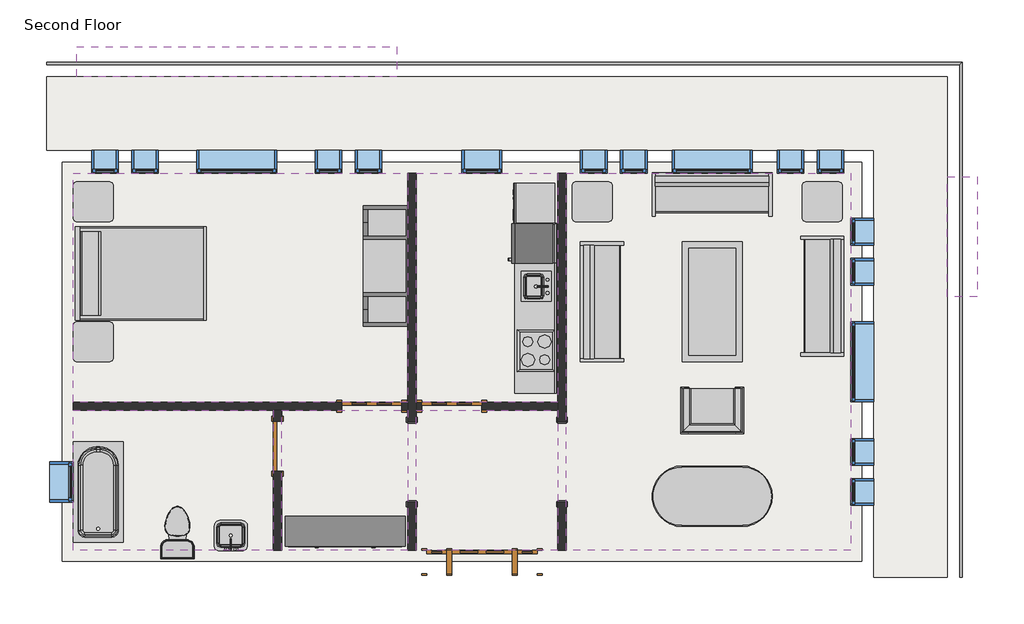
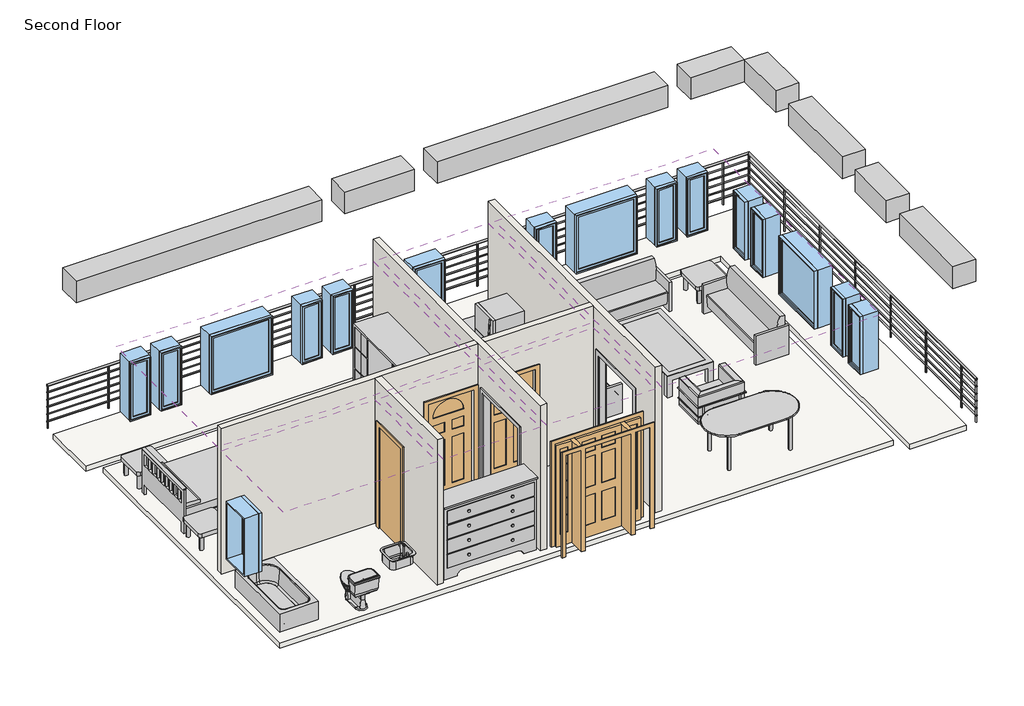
# One storey: 17 windows, 14 furniture elements, 6 coverings, 6 proxies, 5 walls, 4 doors, 4 flow terminals, 2 beams, 3 other elements.
"""IFC4 building model written with IfcOpenShell, lengths in millimetres."""

from ifc_helpers import new_model, si_unit, frame, origin, place, context, project, spatial, polyline, outline, extrude, faceted_brep, transform, mapped, element, save
from components import proxy_dfcd9396, proxy_3c49123c, proxy_7a545507, proxy_f44482cc, proxy_ec3341c2, door_829da954, door_2e3b4da2, door_4d6c7550, door_dba5aa2e, flow_terminal_41332a36, flow_terminal_62a433f7, toilet_domestic_3d_toilet_domestic_3d_f7549cf7, toilet_domestic_3d_toilet_domestic_3d_183bbd19, tub_rectangular_3d_tub_rectangular_3d_15036965, furniture_096e7f55, chair_corbu_chair_corbu_2764bdef, furniture_6db689a5, furniture_7c473f12, furniture_cf0b6580, furniture_a4ffab56, furniture_cd93a443, furniture_2c34a4f9, furniture_3a588284, handrail_pipe_d176f250, window_da97879f, window_d61ef850, window_60baf983, window_6eb97611

model = new_model("IFC4")

# Units and contexts
model_context = context("Model", 3, world=origin())
ifc_project = project(units=[si_unit("LENGTHUNIT", "METRE", prefix="MILLI")], contexts=[model_context])

# Site, building, storey
site = spatial("IfcSite", under=ifc_project)
building = spatial("IfcBuilding", under=site)
storey = spatial("IfcBuildingStorey", under=building, Name="Second Floor", Elevation=3048.0)

# Beams
placement = place(None, origin())
element("IfcBeam", 1, ObjectType="Concrete-Rectangular Beam : 18 x 18", at=placement, inside=storey, context=model_context, shape_type="SweptSolid", body=[
    extrude(outline(polyline([(2093.9410437, 12198.8316867), (2093.9410437, 11741.6316867), (1027.1410437, 11741.6316867), (1027.1410437, 12198.8316867), (2093.9410437, 12198.8316867)])), frame((0.0, 0.0, 5638.8), z_axis=(0.0, 0.0, 1.0), x_axis=(1.0, 0.0, 0.0)), (0.0, 0.0, 1.0), 457.2),
    extrude(outline(polyline([(-11164.8589563, 11741.6316867), (-11164.8589563, 12198.8316867), (-6288.0589563, 12198.8316867), (-6288.0589563, 11741.6316867), (-11164.8589563, 11741.6316867)])), frame((0.0, 0.0, 5638.8), z_axis=(0.0, 0.0, 1.0), x_axis=(1.0, 0.0, 0.0)), (0.0, 0.0, 1.0), 457.2),
    extrude(outline(polyline([(569.9410437, 12198.8316867), (569.9410437, 11741.6316867), (-4002.0589563, 11741.6316867), (-4002.0589563, 12198.8316867), (569.9410437, 12198.8316867)])), frame((0.0, 0.0, 5638.8), z_axis=(0.0, 0.0, 1.0), x_axis=(1.0, 0.0, 0.0)), (0.0, 0.0, 1.0), 457.2),
    extrude(outline(polyline([(-4459.2589563, 12198.8316867), (-4459.2589563, 11741.6316867), (-5830.8589563, 11741.6316867), (-5830.8589563, 12198.8316867), (-4459.2589563, 12198.8316867)])), frame((0.0, 0.0, 5638.8), z_axis=(0.0, 0.0, 1.0), x_axis=(1.0, 0.0, 0.0)), (0.0, 0.0, 1.0), 457.2),
])
element("IfcBeam", 2, ObjectType="Concrete-Rectangular Beam : 18 x 18", at=placement, inside=storey, context=model_context, shape_type="SweptSolid", body=[
    extrude(outline(polyline([(2093.9410437, 11741.6316867), (2551.1410437, 11741.6316867), (2551.1410437, 10674.8316867), (2093.9410437, 10674.8316867), (2093.9410437, 11741.6316867)])), frame((0.0, 0.0, 5638.8), z_axis=(0.0, 0.0, 1.0), x_axis=(1.0, 0.0, 0.0)), (0.0, 0.0, 1.0), 457.2),
    extrude(outline(polyline([(2551.1410437, 4578.8316867), (2093.9410437, 4578.8316867), (2093.9410437, 6407.6316867), (2551.1410437, 6407.6316867), (2551.1410437, 4578.8316867)])), frame((0.0, 0.0, 5638.8), z_axis=(0.0, 0.0, 1.0), x_axis=(1.0, 0.0, 0.0)), (0.0, 0.0, 1.0), 457.2),
    extrude(outline(polyline([(2093.9410437, 10217.6316867), (2551.1410437, 10217.6316867), (2551.1410437, 8388.8316867), (2093.9410437, 8388.8316867), (2093.9410437, 10217.6316867)])), frame((0.0, 0.0, 5638.8), z_axis=(0.0, 0.0, 1.0), x_axis=(1.0, 0.0, 0.0)), (0.0, 0.0, 1.0), 457.2),
    extrude(outline(polyline([(2093.9410437, 7931.6316867), (2551.1410437, 7931.6316867), (2551.1410437, 6864.8316867), (2093.9410437, 6864.8316867), (2093.9410437, 7931.6316867)])), frame((0.0, 0.0, 5638.8), z_axis=(0.0, 0.0, 1.0), x_axis=(1.0, 0.0, 0.0)), (0.0, 0.0, 1.0), 457.2),
])

# Proxies
proxy_shape = proxy_dfcd9396(model_context)
element("IfcBuildingElementProxy", 3, Name="Cook Top-4 Unit2 : 22\" x 20\"", ObjectType="Cook Top-4 Unit2 : 22\" x 20\"", at=placement, inside=storey, context=model_context, shape_type="MappedRepresentation", body=[
    mapped(proxy_shape, transform((-4167.1589563, 7568.5224391, 3048.0), x_axis=(0.0, 1.0000000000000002, 0.0), y_axis=(-1.0000000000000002, 0.0, 0.0), z_axis=(0.0, 0.0, 1.0))),
])
proxy_2_shape = proxy_3c49123c(model_context)
element("IfcBuildingElementProxy", 4, Name="Dishwasher : 24\" x 24\" x 34\"", ObjectType="Dishwasher : 24\" x 24\" x 34\"", at=placement, inside=storey, context=model_context, shape_type="MappedRepresentation", body=[
    mapped(proxy_2_shape, transform((-4459.0085211, 9434.1049706, 3048.0), x_axis=(0.0, 1.0000000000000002, 0.0), y_axis=(-1.0000000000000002, 0.0, 0.0), z_axis=(0.0, 0.0, 1.0))),
])
proxy_3_shape = proxy_7a545507(model_context)
element("IfcBuildingElementProxy", 5, Name="Kitchenette - Medium : 8'6\"", ObjectType="Kitchenette - Medium : 8'6\"", at=placement, inside=storey, context=model_context, shape_type="MappedRepresentation", body=[
    mapped(proxy_3_shape, transform((-3862.3589563, 8197.4847342, 3048.0), x_axis=(0.0, 1.0000000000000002, 0.0), y_axis=(-1.0000000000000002, 0.0, 0.0), z_axis=(0.0, 0.0, 1.0))),
])
proxy_4_shape = proxy_f44482cc(model_context)
element("IfcBuildingElementProxy", 6, Name="Opening-Cased : 48\" x 84\"", ObjectType="Opening-Cased : 48\" x 84\"", at=placement, inside=storey, context=model_context, shape_type="MappedRepresentation", body=[
    mapped(proxy_4_shape, transform((-3773.4589563, 5882.4203434, 3048.0), x_axis=(0.0, 1.0, 0.0), y_axis=(-1.0, 0.0, 0.0), z_axis=(0.0, 0.0, 1.0))),
])
element("IfcBuildingElementProxy", 7, Name="Opening-Cased : 48\" x 84\"", ObjectType="Opening-Cased : 48\" x 84\"", at=placement, inside=storey, context=model_context, shape_type="MappedRepresentation", body=[
    mapped(proxy_4_shape, transform((-6059.4589563, 5866.04303, 3048.0), x_axis=(0.0, -1.0, 0.0), y_axis=(1.0, 0.0, 0.0), z_axis=(0.0, 0.0, 1.0))),
])
proxy_5_shape = proxy_ec3341c2(model_context)
element("IfcBuildingElementProxy", 8, Name="Refrigerator : 24\" x 25\" LH", ObjectType="Refrigerator : 24\" x 25\" LH", at=placement, inside=storey, context=model_context, shape_type="MappedRepresentation", body=[
    mapped(proxy_5_shape, transform((-4212.8079278, 9200.4724391, 3048.0), x_axis=(0.0, 1.0000000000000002, 0.0), y_axis=(-1.0000000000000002, 0.0, 0.0), z_axis=(0.0, 0.0, 1.0))),
])

# Coverings
element("IfcCovering", 9, ObjectType="GWB on Mtl. Stud", at=placement, inside=storey, context=model_context, shape_type="SweptSolid", body=[
    extrude(outline(polyline([(-11217.2464563, 10270.0191867), (-6122.9589563, 10270.0191867), (-6122.9589563, 6787.0441867), (-11217.2464563, 6787.0441867), (-11217.2464563, 10270.0191867)])), frame((0.0, 0.0, 5638.8), z_axis=(0.0, 0.0, 1.0), x_axis=(1.0, 0.0, 0.0)), (0.0, 0.0, 1.0), 107.95),
])
element("IfcCovering", 10, ObjectType="GWB on Mtl. Stud", at=placement, inside=storey, context=model_context, shape_type="SweptSolid", body=[
    extrude(outline(polyline([(-5995.9589563, 6787.0441867), (-5995.9589563, 10270.0191867), (-3836.9589563, 10270.0191867), (-3836.9589563, 6787.0441867), (-5995.9589563, 6787.0441867)])), frame((0.0, 0.0, 5638.8), z_axis=(0.0, 0.0, 1.0), x_axis=(1.0, 0.0, 0.0)), (0.0, 0.0, 1.0), 107.95),
])
element("IfcCovering", 11, ObjectType="GWB on Mtl. Stud", at=placement, inside=storey, context=model_context, shape_type="SweptSolid", body=[
    extrude(outline(polyline([(-3709.9589563, 4526.4441867), (-3709.9589563, 10270.0191867), (622.3285437, 10270.0191867), (622.3285437, 4526.4441867), (-3709.9589563, 4526.4441867)])), frame((0.0, 0.0, 5638.8), z_axis=(0.0, 0.0, 1.0), x_axis=(1.0, 0.0, 0.0)), (0.0, 0.0, 1.0), 107.95),
])
element("IfcCovering", 12, ObjectType="GWB on Mtl. Stud", at=placement, inside=storey, context=model_context, shape_type="SweptSolid", body=[
    extrude(outline(polyline([(-3836.9589563, 4526.4441867), (-5995.9589563, 4526.4441867), (-5995.9589563, 6660.0441867), (-3836.9589563, 6660.0441867), (-3836.9589563, 4526.4441867)])), frame((0.0, 0.0, 5638.8), z_axis=(0.0, 0.0, 1.0), x_axis=(1.0, 0.0, 0.0)), (0.0, 0.0, 1.0), 107.95),
])
element("IfcCovering", 13, ObjectType="GWB on Mtl. Stud", at=placement, inside=storey, context=model_context, shape_type="SweptSolid", body=[
    extrude(outline(polyline([(-8169.2464563, 6660.0441867), (-8169.2464563, 4526.4441867), (-11217.2464563, 4526.4441867), (-11217.2464563, 6660.0441867), (-8169.2464563, 6660.0441867)])), frame((0.0, 0.0, 5638.8), z_axis=(0.0, 0.0, 1.0), x_axis=(1.0, 0.0, 0.0)), (0.0, 0.0, 1.0), 107.95),
])
element("IfcCovering", 14, ObjectType="GWB on Mtl. Stud", at=placement, inside=storey, context=model_context, shape_type="SweptSolid", body=[
    extrude(outline(polyline([(-6122.9589563, 4526.4441867), (-8042.2464563, 4526.4441867), (-8042.2464563, 6660.0441867), (-6122.9589563, 6660.0441867), (-6122.9589563, 4526.4441867)])), frame((0.0, 0.0, 5638.8), z_axis=(0.0, 0.0, 1.0), x_axis=(1.0, 0.0, 0.0)), (0.0, 0.0, 1.0), 107.95),
])

# Doors
door_shape = door_829da954(model_context)
element("IfcDoor", 15, ObjectType="Single-Decorative 2 : 36\" x 84\"", at=placement, inside=storey, context=model_context, shape_type="MappedRepresentation", body=[
    mapped(door_shape, transform((-5449.8589563, 6723.5441867, 3048.0), x_axis=(-1.0, 0.0, 0.0), y_axis=(0.0, -1.0, 0.0), z_axis=(0.0, 0.0, 1.0))),
])
door_2_shape = door_2e3b4da2(model_context)
element("IfcDoor", 16, ObjectType="Single-Decorative 2 : 36\" x 84\"", at=placement, inside=storey, context=model_context, shape_type="MappedRepresentation", body=[
    mapped(door_2_shape, transform((-6669.0589563, 6723.5441867, 3048.0), x_axis=(1.0, 0.0, 0.0), y_axis=(0.0, 1.0, 0.0), z_axis=(0.0, 0.0, 1.0))),
])
door_3_shape = door_4d6c7550(model_context)
element("IfcDoor", 17, ObjectType="Single-Flush : 30\" x 84\"", at=placement, inside=storey, context=model_context, shape_type="MappedRepresentation", body=[
    mapped(door_3_shape, transform((-8105.7464563, 6113.9441867, 3048.0), x_axis=(0.0, 1.0, 0.0), y_axis=(-1.0, 0.0, 0.0), z_axis=(0.0, 0.0, 1.0))),
])
door_4_shape = door_dba5aa2e(model_context)
element("IfcDoor", 18, ObjectType="Single-Raised Panel with Sidelights : 36\" x 84\"", at=placement, inside=storey, context=model_context, shape_type="MappedRepresentation", body=[
    mapped(door_4_shape, transform((-4992.6589563, 4350.2316867, 3048.0), x_axis=(-1.0, 0.0, 0.0), y_axis=(0.0, -1.0, 0.0), z_axis=(0.0, 0.0, 1.0))),
])

# Flow terminals
flow_terminal_shape = flow_terminal_41332a36(model_context)
element("IfcFlowTerminal", 19, ObjectType="Sink Kitchen-Island : 18\" x 18\"", at=placement, inside=storey, context=model_context, shape_type="MappedRepresentation", body=[
    mapped(flow_terminal_shape, transform((-4169.5043574, 8530.7331986, 3033.6), x_axis=(0.0, 1.0000000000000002, 0.0), y_axis=(-1.0000000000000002, 0.0, 0.0), z_axis=(0.0, 0.0, 1.0))),
])
flow_terminal_2_shape = flow_terminal_62a433f7(model_context)
element("IfcFlowTerminal", 20, ObjectType="Sink Vanity-Square : 20\" x 18\"", at=placement, inside=storey, context=model_context, shape_type="MappedRepresentation", body=[
    mapped(flow_terminal_2_shape, transform((-8801.2572158, 4706.5895878, 3048.0), x_axis=(-1.0, 0.0, 0.0), y_axis=(0.0, -1.0, 0.0), z_axis=(0.0, 0.0, 1.0))),
])
toilet_domestic_3d_toilet_domestic_3d_shape = toilet_domestic_3d_toilet_domestic_3d_f7549cf7(model_context)
toilet_domestic_3d_toilet_domestic_3d_2_shape = toilet_domestic_3d_toilet_domestic_3d_183bbd19(model_context)
element("IfcFlowTerminal", 21, ObjectType="Toilet-Domestic-3D : Toilet-Domestic-3D", at=placement, inside=storey, context=model_context, shape_type="MappedRepresentation", body=[
    mapped(toilet_domestic_3d_toilet_domestic_3d_shape, transform((-9629.7464563, 4894.7441867, 3048.0), x_axis=(-1.0, 0.0, 0.0), y_axis=(0.0, -1.0, 0.0), z_axis=(0.0, 0.0, 1.0))),
    mapped(toilet_domestic_3d_toilet_domestic_3d_2_shape, transform((-9629.7464563, 4894.7441867, 3048.0), x_axis=(-1.0, 0.0, 0.0), y_axis=(0.0, -1.0, 0.0), z_axis=(0.0, 0.0, 1.0))),
])
tub_rectangular_3d_tub_rectangular_3d_shape = tub_rectangular_3d_tub_rectangular_3d_15036965(model_context)
element("IfcFlowTerminal", 22, ObjectType="Tub-Rectangular-3D : Tub-Rectangular-3D", at=placement, inside=storey, context=model_context, shape_type="MappedRepresentation", body=[
    mapped(tub_rectangular_3d_tub_rectangular_3d_shape, transform((-11393.4589563, 5765.6346554, 3048.0), x_axis=(0.0, 1.0, 0.0), y_axis=(-1.0, 0.0, 0.0), z_axis=(0.0, 0.0, 1.0))),
])

# Furniture
furniture_shape = furniture_096e7f55(model_context)
element("IfcFurniture", 23, ObjectType="Bed-Shaker : Double 56\" x 78\"", at=placement, inside=storey, context=model_context, shape_type="MappedRepresentation", body=[
    mapped(furniture_shape, transform((-11172.0857802, 8763.4816867, 3048.0), x_axis=(0.0, 1.0, 0.0), y_axis=(-1.0, 0.0, 0.0), z_axis=(0.0, 0.0, 1.0))),
])
chair_corbu_chair_corbu_shape = chair_corbu_chair_corbu_2764bdef(model_context)
element("IfcFurniture", 24, ObjectType="Chair-Corbu : Chair-Corbu", at=placement, inside=storey, context=model_context, shape_type="MappedRepresentation", body=[
    mapped(chair_corbu_chair_corbu_shape, transform((-914.0851858, 7126.8212359, 3048.0), x_axis=(-1.0, 0.0, 0.0), y_axis=(0.0, -1.0, 0.0), z_axis=(0.0, 0.0, 1.0))),
])
furniture_2_shape = furniture_6db689a5(model_context)
element("IfcFurniture", 25, ObjectType="Counter Top w Sink Hole : 24\" Depth", at=placement, inside=storey, context=model_context, shape_type="MappedRepresentation", body=[
    mapped(furniture_2_shape, transform((-3862.3589563, 8121.2847342, 3033.6), x_axis=(0.0, 1.0000000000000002, 0.0), y_axis=(-1.0000000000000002, 0.0, 0.0), z_axis=(0.0, 0.0, 1.0))),
])
furniture_3_shape = furniture_7c473f12(model_context)
element("IfcFurniture", 26, ObjectType="Dresser : 72\" x 60\" x 18\"", at=placement, inside=storey, context=model_context, shape_type="MappedRepresentation", body=[
    mapped(furniture_3_shape, transform((-6806.2656965, 5181.7071408, 3048.0), x_axis=(1.0, 0.0, 0.0), y_axis=(0.0, 1.0, 0.0), z_axis=(0.0, 0.0, 1.0))),
])
furniture_4_shape = furniture_cf0b6580(model_context)
element("IfcFurniture", 27, ObjectType="Entertainment Center : 72\" x 72\" x 24\"", at=placement, inside=storey, context=model_context, shape_type="MappedRepresentation", body=[
    mapped(furniture_4_shape, transform((-6021.3589563, 8857.1441867, 3048.0), x_axis=(0.0, -1.0, 0.0), y_axis=(1.0, 0.0, 0.0), z_axis=(0.0, 0.0, 1.0))),
])
furniture_5_shape = furniture_a4ffab56(model_context)
element("IfcFurniture", 28, ObjectType="Sofa : 72\"", at=placement, inside=storey, context=model_context, shape_type="MappedRepresentation", body=[
    mapped(furniture_5_shape, transform((-3017.704858, 8242.2611949, 3048.0), x_axis=(0.0, 1.0, 0.0), y_axis=(-1.0, 0.0, 0.0), z_axis=(0.0, 0.0, 1.0))),
])
element("IfcFurniture", 29, ObjectType="Sofa : 72\"", at=placement, inside=storey, context=model_context, shape_type="MappedRepresentation", body=[
    mapped(furniture_5_shape, transform((-1557.8294481, 9801.5748071, 3048.0), x_axis=(1.0, 0.0, 0.0), y_axis=(0.0, 1.0, 0.0), z_axis=(0.0, 0.0, 1.0))),
])
element("IfcFurniture", 30, ObjectType="Sofa : 72\"", at=placement, inside=storey, context=model_context, shape_type="MappedRepresentation", body=[
    mapped(furniture_5_shape, transform((42.7869453, 8470.3146785, 3048.0), x_axis=(0.0, -1.0, 0.0), y_axis=(1.0, 0.0, 0.0), z_axis=(0.0, 0.0, 1.0))),
])
furniture_6_shape = furniture_cd93a443(model_context)
element("IfcFurniture", 31, ObjectType="Table-Coffee : 36\" x 72\" x 18\"", at=placement, inside=storey, context=model_context, shape_type="MappedRepresentation", body=[
    mapped(furniture_6_shape, transform((-1392.2478785, 8294.36592, 3048.0), x_axis=(0.0, 1.0, 0.0), y_axis=(-1.0, 0.0, 0.0), z_axis=(0.0, 0.0, 1.0))),
])
furniture_7_shape = furniture_2c34a4f9(model_context)
element("IfcFurniture", 32, ObjectType="Table-Dining Oval : 36\" x 72\"", at=placement, inside=storey, context=model_context, shape_type="MappedRepresentation", body=[
    mapped(furniture_7_shape, transform((-1085.6392842, 5710.0425473, 3048.0), x_axis=(1.0, 0.0, 0.0), y_axis=(0.0, 1.0, 0.0), z_axis=(0.0, 0.0, 1.0))),
])
furniture_8_shape = furniture_3a588284(model_context)
element("IfcFurniture", 33, ObjectType="Table-End : 24\" x 24\"", at=placement, inside=storey, context=model_context, shape_type="MappedRepresentation", body=[
    mapped(furniture_8_shape, transform((-119.5925866, 9684.2316867, 3048.0), x_axis=(1.0, 0.0, 0.0), y_axis=(0.0, 1.0, 0.0), z_axis=(0.0, 0.0, 1.0))),
])
element("IfcFurniture", 34, ObjectType="Table-End : 24\" x 24\"", at=placement, inside=storey, context=model_context, shape_type="MappedRepresentation", body=[
    mapped(furniture_8_shape, transform((-11220.9800866, 7550.6316867, 3048.0), x_axis=(1.0, 0.0, 0.0), y_axis=(0.0, 1.0, 0.0), z_axis=(0.0, 0.0, 1.0))),
])
element("IfcFurniture", 35, ObjectType="Table-End : 24\" x 24\"", at=placement, inside=storey, context=model_context, shape_type="MappedRepresentation", body=[
    mapped(furniture_8_shape, transform((-11220.9800866, 9684.2316867, 3048.0), x_axis=(1.0, 0.0, 0.0), y_axis=(0.0, 1.0, 0.0), z_axis=(0.0, 0.0, 1.0))),
])
element("IfcFurniture", 36, ObjectType="Table-End : 24\" x 24\"", at=placement, inside=storey, context=model_context, shape_type="MappedRepresentation", body=[
    mapped(furniture_8_shape, transform((-3624.7925866, 9684.2316867, 3048.0), x_axis=(1.0, 0.0, 0.0), y_axis=(0.0, 1.0, 0.0), z_axis=(0.0, 0.0, 1.0))),
])

# Railing
handrail_pipe_shape = handrail_pipe_d176f250(model_context)
element("IfcRailing", 37, ObjectType="Handrail - Pipe", at=placement, inside=storey, context=model_context, shape_type="MappedRepresentation", body=[
    mapped(handrail_pipe_shape, transform((0.0, 0.0, 0.0), x_axis=(1.0, 0.0, 0.0), y_axis=(0.0, 1.0, 0.0), z_axis=(0.0, 0.0, 1.0))),
])

# Slabs
element("IfcSlab", 38, ObjectType="LW Concrete on Metal Deck", at=placement, inside=storey, context=model_context, shape_type="SweptSolid", body=[
    extrude(outline(polyline([(787.4285437, 10435.1191867), (787.4285437, 4361.3441867), (-11382.3464563, 4361.3441867), (-11382.3464563, 10435.1191867), (787.4285437, 10435.1191867)])), frame((0.0, 0.0, 2943.225), z_axis=(0.0, 0.0, 1.0), x_axis=(1.0, 0.0, 0.0)), (0.0, 0.0, 1.0), 104.775),
])
element("IfcSlab", 39, ObjectType="LW Concrete on Metal Deck", at=placement, inside=storey, context=model_context, shape_type="SweptSolid", body=[
    extrude(outline(polyline([(-11622.0589563, 10622.4441867), (-11622.0589563, 11741.6316867), (2093.9410437, 11741.6316867), (2093.9410437, 4121.6316867), (974.7535437, 4121.6316867), (974.7535437, 10622.4441867), (-11622.0589563, 10622.4441867)])), frame((0.0, 0.0, 2943.225), z_axis=(0.0, 0.0, 1.0), x_axis=(1.0, 0.0, 0.0)), (0.0, 0.0, 1.0), 104.775),
])

# Walls
element("IfcWall", 40, ObjectType="Interior - 5\" Partition (2-hr)", at=placement, inside=storey, context=model_context, shape_type="Brep", body=[
    faceted_brep([(-3709.9589563, 10270.0191867, 3048.0), (-3709.9589563, 6483.8316867, 3048.0), (-3836.9589563, 6483.8316867, 3048.0), (-3836.9589563, 6660.0441867, 3048.0), (-3836.9589563, 6787.0441867, 3048.0), (-3836.9589563, 10270.0191867, 3048.0), (-3709.9589563, 5264.6316867, 3048.0), (-3709.9589563, 4526.4441867, 3048.0), (-3836.9589563, 4526.4441867, 3048.0), (-3836.9589563, 5264.6316867, 3048.0), (-3836.9589563, 10270.0191867, 6096.0), (-3836.9589563, 6787.0441867, 6096.0), (-3836.9589563, 6660.0441867, 6096.0), (-3836.9589563, 4526.4441867, 6096.0), (-3709.9589563, 4526.4441867, 6096.0), (-3709.9589563, 10270.0191867, 6096.0), (-3836.9589563, 6483.8316867, 5181.6), (-3836.9589563, 5264.6316867, 5181.6), (-3709.9589563, 6483.8316867, 5181.6), (-3709.9589563, 5264.6316867, 5181.6)], [[[0, 1, 2, 3, 4, 5]], [[6, 7, 8, 9]], [[10, 11, 12, 13, 14, 15]], [[5, 4, 3, 2, 16, 17, 9, 8, 13, 12, 11, 10]], [[18, 1, 0, 15, 14, 7, 6, 19]], [[5, 10, 15, 0]], [[13, 8, 7, 14]], [[9, 17, 19, 6]], [[16, 2, 1, 18]], [[17, 16, 18, 19]]]),
])
element("IfcWall", 41, ObjectType="Interior - 5\" Partition (2-hr)", at=placement, inside=storey, context=model_context, shape_type="Brep", body=[
    faceted_brep([(-6122.9589563, 4526.4441867, 3048.0), (-6122.9589563, 5264.6316867, 3048.0), (-5995.9589563, 5264.6316867, 3048.0), (-5995.9589563, 4526.4441867, 3048.0), (-6122.9589563, 6483.8316867, 3048.0), (-6122.9589563, 6660.0441867, 3048.0), (-6122.9589563, 6787.0441867, 3048.0), (-6122.9589563, 10270.0191867, 3048.0), (-5995.9589563, 10270.0191867, 3048.0), (-5995.9589563, 6787.0441867, 3048.0), (-5995.9589563, 6660.0441867, 3048.0), (-5995.9589563, 6483.8316867, 3048.0), (-6122.9589563, 10270.0191867, 6096.0), (-6122.9589563, 6787.0441867, 6096.0), (-6122.9589563, 6660.0441867, 6096.0), (-6122.9589563, 4526.4441867, 6096.0), (-5995.9589563, 4526.4441867, 6096.0), (-5995.9589563, 6660.0441867, 6096.0), (-5995.9589563, 6787.0441867, 6096.0), (-5995.9589563, 10270.0191867, 6096.0), (-6122.9589563, 5264.6316867, 5181.6), (-6122.9589563, 6483.8316867, 5181.6), (-5995.9589563, 5264.6316867, 5181.6), (-5995.9589563, 6483.8316867, 5181.6)], [[[0, 1, 2, 3]], [[4, 5, 6, 7, 8, 9, 10, 11]], [[12, 13, 14, 15, 16, 17, 18, 19]], [[20, 1, 0, 15, 14, 13, 12, 7, 6, 5, 4, 21]], [[3, 2, 22, 23, 11, 10, 9, 8, 19, 18, 17, 16]], [[7, 12, 19, 8]], [[15, 0, 3, 16]], [[11, 23, 21, 4]], [[22, 2, 1, 20]], [[23, 22, 20, 21]]]),
])
element("IfcWall", 42, ObjectType="Interior - 5\" Partition (2-hr)", at=placement, inside=storey, context=model_context, shape_type="Brep", body=[
    faceted_brep([(-6122.9589563, 6660.0441867, 3048.0), (-6211.8589563, 6660.0441867, 3048.0), (-6211.8589563, 6787.0441867, 3048.0), (-6122.9589563, 6787.0441867, 3048.0), (-7126.2589563, 6660.0441867, 3048.0), (-8042.2464563, 6660.0441867, 3048.0), (-8169.2464563, 6660.0441867, 3048.0), (-11217.2464563, 6660.0441867, 3048.0), (-11217.2464563, 6787.0441867, 3048.0), (-7126.2589563, 6787.0441867, 3048.0), (-11217.2464563, 6660.0441867, 6096.0), (-8169.2464563, 6660.0441867, 6096.0), (-8042.2464563, 6660.0441867, 6096.0), (-6122.9589563, 6660.0441867, 6096.0), (-6122.9589563, 6787.0441867, 6096.0), (-11217.2464563, 6787.0441867, 6096.0), (-6211.8589563, 6660.0441867, 5181.6), (-7126.2589563, 6660.0441867, 5181.6), (-6211.8589563, 6787.0441867, 5181.6), (-7126.2589563, 6787.0441867, 5181.6)], [[[0, 1, 2, 3]], [[4, 5, 6, 7, 8, 9]], [[10, 11, 12, 13, 14, 15]], [[16, 1, 0, 13, 12, 11, 10, 7, 6, 5, 4, 17]], [[3, 2, 18, 19, 9, 8, 15, 14]], [[13, 0, 3, 14]], [[7, 10, 15, 8]], [[18, 2, 1, 16]], [[19, 18, 16, 17]], [[9, 19, 17, 4]]]),
])
element("IfcWall", 43, ObjectType="Interior - 5\" Partition (2-hr)", at=placement, inside=storey, context=model_context, shape_type="SweptSolid", body=[
    extrude(outline(polyline([(6660.0441867, 3048.0), (6494.9441867, 3048.0), (6494.9441867, 5181.6), (5732.9441867, 5181.6), (5732.9441867, 3048.0), (4526.4441867, 3048.0), (4526.4441867, 6096.0), (6660.0441867, 6096.0), (6660.0441867, 3048.0)])), frame((-8169.2464563, 0.0, 0.0), z_axis=(1.0, 0.0, 0.0), x_axis=(0.0, 1.0, 0.0)), (0.0, 0.0, 1.0), 127.0),
])
element("IfcWall", 44, ObjectType="Interior - 5\" Partition (2-hr)", at=placement, inside=storey, context=model_context, shape_type="SweptSolid", body=[
    extrude(outline(polyline([(3048.0, -5995.9589563), (3048.0, -5907.0589563), (5181.6, -5907.0589563), (5181.6, -4992.6589563), (3048.0, -4992.6589563), (3048.0, -3836.9589563), (6096.0, -3836.9589563), (6096.0, -5995.9589563), (3048.0, -5995.9589563)])), frame((0.0, 6660.0441867, 0.0), z_axis=(0.0, 1.0, 0.0), x_axis=(0.0, 0.0, 1.0)), (0.0, 0.0, 1.0), 127.0),
])

# Windows
window_shape = window_da97879f(model_context)
element("IfcWindow", 45, ObjectType="Fixed : 16\" x 48\"", at=placement, inside=storey, context=model_context, shape_type="MappedRepresentation", body=[
    mapped(window_shape, transform((-10771.1589563, 10446.2316867, 3048.0), x_axis=(-1.0, 0.0, 0.0), y_axis=(0.0, -1.0, 0.0), z_axis=(0.0, 0.0, 1.0))),
])
element("IfcWindow", 46, ObjectType="Fixed : 16\" x 48\"", at=placement, inside=storey, context=model_context, shape_type="MappedRepresentation", body=[
    mapped(window_shape, transform((-10161.5589563, 10446.2316867, 3048.0), x_axis=(-1.0, 0.0, 0.0), y_axis=(0.0, -1.0, 0.0), z_axis=(0.0, 0.0, 1.0))),
])
element("IfcWindow", 47, ObjectType="Fixed : 16\" x 48\"", at=placement, inside=storey, context=model_context, shape_type="MappedRepresentation", body=[
    mapped(window_shape, transform((-3328.9589563, 10446.2316867, 3048.0), x_axis=(-1.0, 0.0, 0.0), y_axis=(0.0, -1.0, 0.0), z_axis=(0.0, 0.0, 1.0))),
])
element("IfcWindow", 48, ObjectType="Fixed : 16\" x 48\"", at=placement, inside=storey, context=model_context, shape_type="MappedRepresentation", body=[
    mapped(window_shape, transform((-2719.3589563, 10446.2316867, 3048.0), x_axis=(-1.0, 0.0, 0.0), y_axis=(0.0, -1.0, 0.0), z_axis=(0.0, 0.0, 1.0))),
])
element("IfcWindow", 49, ObjectType="Fixed : 16\" x 48\"", at=placement, inside=storey, context=model_context, shape_type="MappedRepresentation", body=[
    mapped(window_shape, transform((798.5410437, 9417.5316867, 3048.0), x_axis=(0.0, 1.0, 0.0), y_axis=(-1.0, 0.0, 0.0), z_axis=(0.0, 0.0, 1.0))),
])
element("IfcWindow", 50, ObjectType="Fixed : 16\" x 48\"", at=placement, inside=storey, context=model_context, shape_type="MappedRepresentation", body=[
    mapped(window_shape, transform((798.5410437, 8807.9316867, 3048.0), x_axis=(0.0, 1.0, 0.0), y_axis=(-1.0, 0.0, 0.0), z_axis=(0.0, 0.0, 1.0))),
])
window_2_shape = window_d61ef850(model_context)
element("IfcWindow", 51, ObjectType="Fixed : 16\" x 48\"", at=placement, inside=storey, context=model_context, shape_type="MappedRepresentation", body=[
    mapped(window_2_shape, transform((-6681.7589563, 10446.2316867, 3048.0), x_axis=(1.0, 0.0, 0.0), y_axis=(0.0, 1.0, 0.0), z_axis=(0.0, 0.0, 1.0))),
])
element("IfcWindow", 52, ObjectType="Fixed : 16\" x 48\"", at=placement, inside=storey, context=model_context, shape_type="MappedRepresentation", body=[
    mapped(window_2_shape, transform((-7291.3589563, 10446.2316867, 3048.0), x_axis=(1.0, 0.0, 0.0), y_axis=(0.0, 1.0, 0.0), z_axis=(0.0, 0.0, 1.0))),
])
element("IfcWindow", 53, ObjectType="Fixed : 16\" x 48\"", at=placement, inside=storey, context=model_context, shape_type="MappedRepresentation", body=[
    mapped(window_2_shape, transform((354.0410437, 10446.2316867, 3048.0), x_axis=(1.0, 0.0, 0.0), y_axis=(0.0, 1.0, 0.0), z_axis=(0.0, 0.0, 1.0))),
])
element("IfcWindow", 54, ObjectType="Fixed : 16\" x 48\"", at=placement, inside=storey, context=model_context, shape_type="MappedRepresentation", body=[
    mapped(window_2_shape, transform((-255.5589563, 10446.2316867, 3048.0), x_axis=(1.0, 0.0, 0.0), y_axis=(0.0, 1.0, 0.0), z_axis=(0.0, 0.0, 1.0))),
])
element("IfcWindow", 55, ObjectType="Fixed : 16\" x 48\"", at=placement, inside=storey, context=model_context, shape_type="MappedRepresentation", body=[
    mapped(window_2_shape, transform((798.5410437, 5378.9316867, 3048.0), x_axis=(0.0, -1.0, 0.0), y_axis=(1.0, 0.0, 0.0), z_axis=(0.0, 0.0, 1.0))),
])
element("IfcWindow", 56, ObjectType="Fixed : 16\" x 48\"", at=placement, inside=storey, context=model_context, shape_type="MappedRepresentation", body=[
    mapped(window_2_shape, transform((798.5410437, 5988.5316867, 3048.0), x_axis=(0.0, -1.0, 0.0), y_axis=(1.0, 0.0, 0.0), z_axis=(0.0, 0.0, 1.0))),
])
window_3_shape = window_60baf983(model_context)
element("IfcWindow", 57, ObjectType="Fixed : 24\" x 48\"", at=placement, inside=storey, context=model_context, shape_type="MappedRepresentation", body=[
    mapped(window_3_shape, transform((-5030.7589563, 10446.2316867, 3048.0), x_axis=(-1.0, 0.0, 0.0), y_axis=(0.0, -1.0, 0.0), z_axis=(0.0, 0.0, 1.0))),
])
element("IfcWindow", 58, ObjectType="Fixed : 24\" x 48\"", at=placement, inside=storey, context=model_context, shape_type="MappedRepresentation", body=[
    mapped(window_3_shape, transform((-11393.4589563, 5531.3316867, 3048.0), x_axis=(0.0, -1.0, 0.0), y_axis=(1.0, 0.0, 0.0), z_axis=(0.0, 0.0, 1.0))),
])
window_4_shape = window_6eb97611(model_context)
element("IfcWindow", 59, ObjectType="Fixed : 48\" x 48\"", at=placement, inside=storey, context=model_context, shape_type="MappedRepresentation", body=[
    mapped(window_4_shape, transform((-8764.5589563, 10446.2316867, 3048.0), x_axis=(-1.0, 0.0, 0.0), y_axis=(0.0, -1.0, 0.0), z_axis=(0.0, 0.0, 1.0))),
])
element("IfcWindow", 60, ObjectType="Fixed : 48\" x 48\"", at=placement, inside=storey, context=model_context, shape_type="MappedRepresentation", body=[
    mapped(window_4_shape, transform((-1525.5589563, 10446.2316867, 3048.0), x_axis=(-1.0, 0.0, 0.0), y_axis=(0.0, -1.0, 0.0), z_axis=(0.0, 0.0, 1.0))),
])
element("IfcWindow", 61, ObjectType="Fixed : 48\" x 48\"", at=placement, inside=storey, context=model_context, shape_type="MappedRepresentation", body=[
    mapped(window_4_shape, transform((798.5410437, 7436.3316867, 3048.0), x_axis=(0.0, 1.0, 0.0), y_axis=(-1.0, 0.0, 0.0), z_axis=(0.0, 0.0, 1.0))),
])

save(model, "model.ifc")
